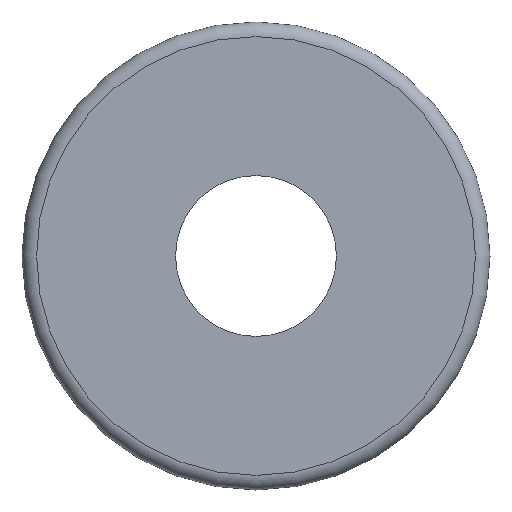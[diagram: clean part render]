
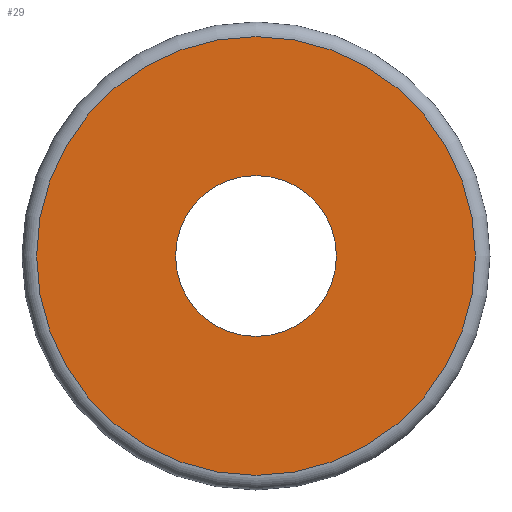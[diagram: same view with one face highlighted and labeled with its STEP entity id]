
A CAD part, front view. The second image highlights one B-rep face of the part: STEP entity #29.
In plain terms, the highlighted planar face has unit normal (0, -1, 0).
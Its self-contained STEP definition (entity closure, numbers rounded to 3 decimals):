
#29=ADVANCED_FACE('',(#56,#57),#58,.T.);
#56=FACE_OUTER_BOUND('',#83,.T.);
#57=FACE_BOUND('',#84,.T.);
#58=PLANE('',#85);
#83=EDGE_LOOP('',(#104));
#84=EDGE_LOOP('',(#105));
#85=AXIS2_PLACEMENT_3D('',#106,#107,#108);
#104=ORIENTED_EDGE('',*,*,#134,.T.);
#105=ORIENTED_EDGE('',*,*,#135,.T.);
#106=CARTESIAN_POINT('',(0.0,-1.5,0.0));
#107=DIRECTION('',(0.0,-1.0,0.0));
#108=DIRECTION('',(1.0,0.0,0.0));
#134=EDGE_CURVE('',#144,#144,#145,.T.);
#135=EDGE_CURVE('',#146,#146,#147,.T.);
#144=VERTEX_POINT('',#159);
#145=CIRCLE('',#160,7.5);
#146=VERTEX_POINT('',#161);
#147=CIRCLE('',#162,2.75);
#159=CARTESIAN_POINT('',(7.5,-1.5,0.0));
#160=AXIS2_PLACEMENT_3D('',#173,#174,#175);
#161=CARTESIAN_POINT('',(2.75,-1.5,0.0));
#162=AXIS2_PLACEMENT_3D('',#176,#177,#178);
#173=CARTESIAN_POINT('',(0.0,-1.5,0.0));
#174=DIRECTION('',(0.0,-1.0,0.0));
#175=DIRECTION('',(1.0,0.0,0.0));
#176=CARTESIAN_POINT('',(0.0,-1.5,0.0));
#177=DIRECTION('',(-0.0,1.0,0.0));
#178=DIRECTION('',(1.0,0.0,0.0));
